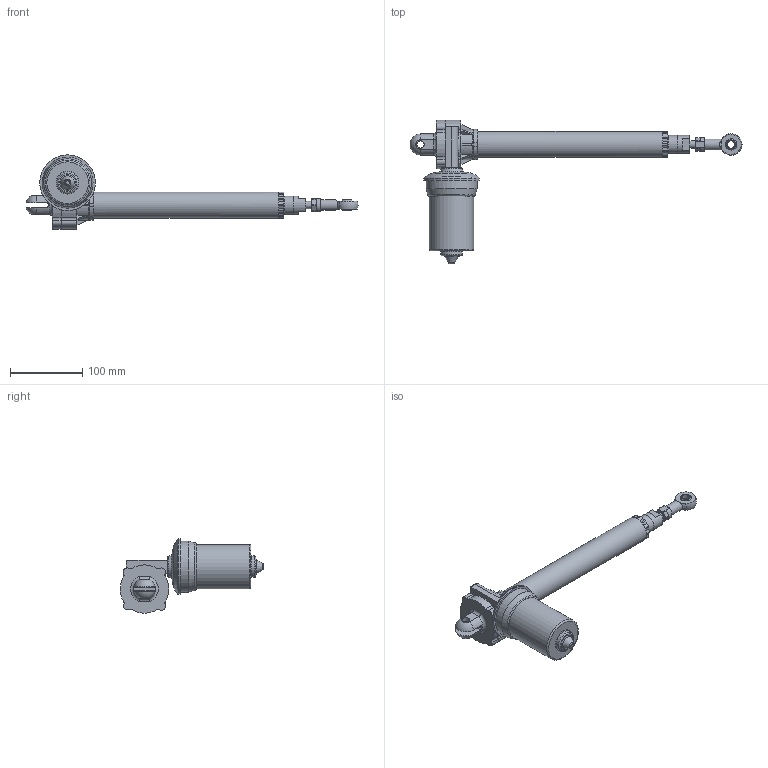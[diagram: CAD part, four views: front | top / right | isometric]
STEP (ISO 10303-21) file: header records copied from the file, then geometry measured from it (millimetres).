
FILE_DESCRIPTION(/* description */ ('STEP AP203'),/* implementation_level */ '2;1');
FILE_NAME(/* name */ 'ALI3_250_0_M04_CC-24-61_5-5000__TIPOX._0_E01__1_4',/* time_stamp */ '2026-05-07T10:45:32+02:00',/* author */ ('License CC BY-ND 4.0'),/* organization */ ('CADENAS'),/* preprocessor_version */ 'ST-DEVELOPER v20',/* originating_system */ 'PARTsolutions',/* authorisation */ ' ');
FILE_SCHEMA (('CONFIG_CONTROL_DESIGN'));
Length unit declared in the file: millimetre
Products named in the file (6): ALI3/250/0/M04/CC-24-61,5-5000/$TIPOX./0/E01//1/4/////; corpo_ALI3.250.0.01; AP_ALI32; CD012.0010-G; asta_ALI3.250; C4
Assembly tree (5 placements, depth 2):
  ALI3/250/0/M04/CC-24-61,5-5000/$TIPOX./0/E01//1/4/////
    corpo_ALI3.250.0.01
    AP_ALI32
    CD012.0010-G
    asta_ALI3.250
    C4
Bounding box: 459.59 x 198.41 x 102.91 mm (x, y, z)
Volume: 840003.5 mm3; surface area: 153729.6 mm2
Topology: 5 solids, 5 shells, 225 faces, 574 edges, 371 vertices
Faces by surface type: plane 122, cylinder 60, cone 25, torus 13, sphere 5
Full cylindrical faces by diameter (mm): 10 x4, 15 x1, 25 x3, 29.5 x1, 36 x1, 42 x1, 61.5 x1, 70.5 x1, 77 x1
Entity records: 6773 total; most frequent: CARTESIAN_POINT 1295, DIRECTION 1166, ORIENTED_EDGE 1062, EDGE_CURVE 531, AXIS2_PLACEMENT_3D 454, VERTEX_POINT 360, EDGE_LOOP 275, FACE_BOUND 275
